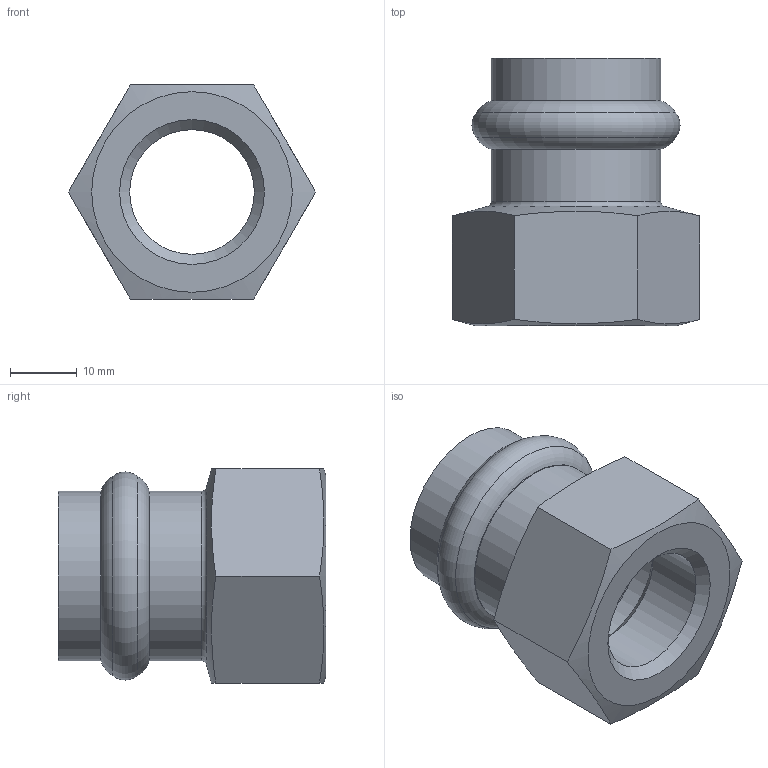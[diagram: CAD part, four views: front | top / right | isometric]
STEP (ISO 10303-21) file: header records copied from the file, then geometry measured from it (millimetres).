
FILE_DESCRIPTION(/* description */ (''),/* implementation_level */ '2;1');
FILE_NAME(/* name */ 'C:\Users\Vault\Desktop\Articoli_INOXPRES UNIKO\190_INOXPRES_UNIKO\190102022U_Inoxpres_Uniko.stp',/* time_stamp */ '2022-10-06T11:32:47+02:00',/* author */ ('Vault'),/* organization */ ('Raccorderie metalliche s.p.a. '),/* preprocessor_version */ 'ST-DEVELOPER v18.1',/* originating_system */ 'Autodesk Inventor 2020',/* authorisation */ 'Raccorderie metalliche s.p.a. ');
FILE_SCHEMA (('AUTOMOTIVE_DESIGN { 1 0 10303 214 3 1 1 }'));
Length unit declared in the file: millimetre
Products named in the file (1): 190102022V_Inoxpres_Uniko
Bounding box: 36.95 x 40 x 32 mm (x, y, z)
Volume: 13946.8 mm3; surface area: 7827.2 mm2
Topology: 1 solids, 1 shells, 39 faces, 102 edges, 69 vertices
Faces by surface type: plane 12, torus 10, cylinder 9, cone 8
Full cylindrical faces by diameter (mm): 18.64 x1, 19.3 x1, 21.5 x1, 22.3 x4, 25.3 x2
Entity records: 1276 total; most frequent: CARTESIAN_POINT 239, DIRECTION 233, ORIENTED_EDGE 204, AXIS2_PLACEMENT_3D 105, EDGE_CURVE 102, VERTEX_POINT 69, CIRCLE 65, EDGE_LOOP 45
